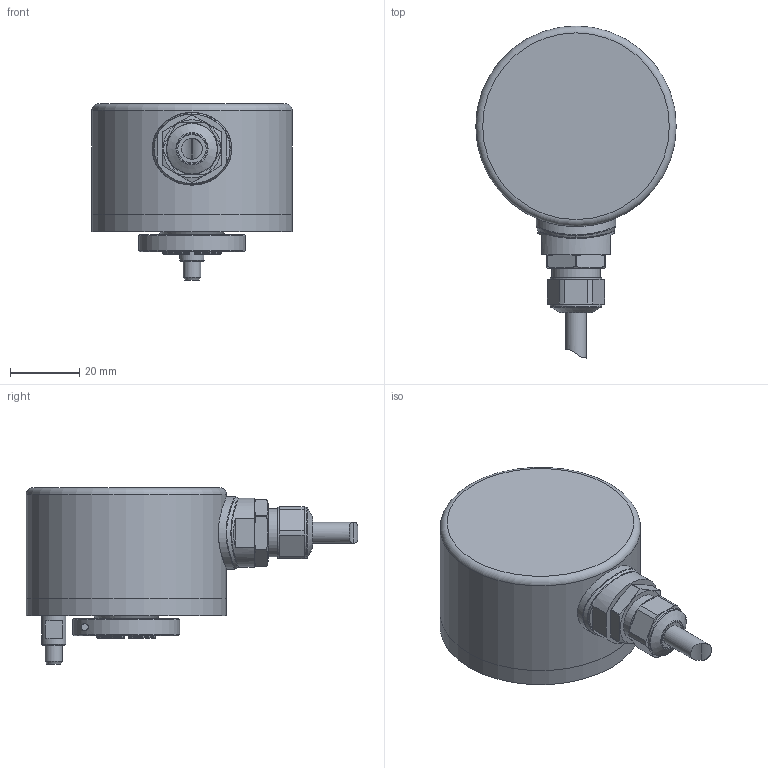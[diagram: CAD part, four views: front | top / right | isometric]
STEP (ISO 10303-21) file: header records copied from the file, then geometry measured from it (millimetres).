
FILE_DESCRIPTION( ( 'Unknown' ), '1' );
FILE_NAME( 'Z:/PJ-RD-MC/10601626_MAGRES_4/20__Produktmanagement/Datenblatt/Vereinfachte Modelle und DAB-Zeichnungen/November 2016/58/Hohlwelle/ø15/EAM580-BEF.xLxx.xxxxx.A.stp', 'Unknown', ( 'Unknown' ), ( 'Unknown' ), 'PSStep 15.0.49', 'Unknown', ' ' );
FILE_SCHEMA( ( 'AUTOMOTIVE_DESIGN { 1 0 10303 214 1 1 1 1 }' ) );
Length unit declared in the file: millimetre
Products named in the file (15): Kabelabgang; 11099321_vereinfacht; 11099323_vereinfacht; 11106443; Kabel; 6Kant Mutter M14; 58 H BoMo 15 vereinfacht; 11158182_vereinfacht; 11158187 vereinfacht; 11115507; 126053; EAM580-BNF.xLxx.xxxxx.A; 11161007_vereinfacht; Assem1; 11173489
Assembly tree (14 placements, depth 4):
  Assem1
    11173489
    EAM580-BNF.xLxx.xxxxx.A
      11161007_vereinfacht
      Kabelabgang
        11099321_vereinfacht
        11099323_vereinfacht
        11106443
        Kabel
        6Kant Mutter M14
      58 H BoMo 15 vereinfacht
        11158182_vereinfacht
        11158187 vereinfacht
        11115507
        126053
Bounding box: 58 x 96 x 51 mm (x, y, z)
Surface area: 33711.1 mm2 (no closed solid volume)
Topology: 0 solids, 201 shells, 201 faces, 862 edges, 807 vertices
Faces by surface type: plane 96, cylinder 62, cone 23, torus 12, bspline 6, extrusion 2
Full cylindrical faces by diameter (mm): 2.013 x1, 2.5 x1, 2.6 x1, 3 x1, 3.242 x8, 4 x1, 4.5 x1, 5 x1, 6 x1, 7 x1, 8.2 x1, 13.35 x2, 14 x2, 14.8 x2, 15 x1, 15.4 x1, 16.5 x1, 19 x2, 56 x2, 58 x2
Entity records: 15930 total; most frequent: CARTESIAN_POINT 7767, DIRECTION 1418, ORIENTED_EDGE 788, EDGE_CURVE 788, VERTEX_POINT 788, AXIS2_PLACEMENT_3D 545, VECTOR 328, LINE 326
